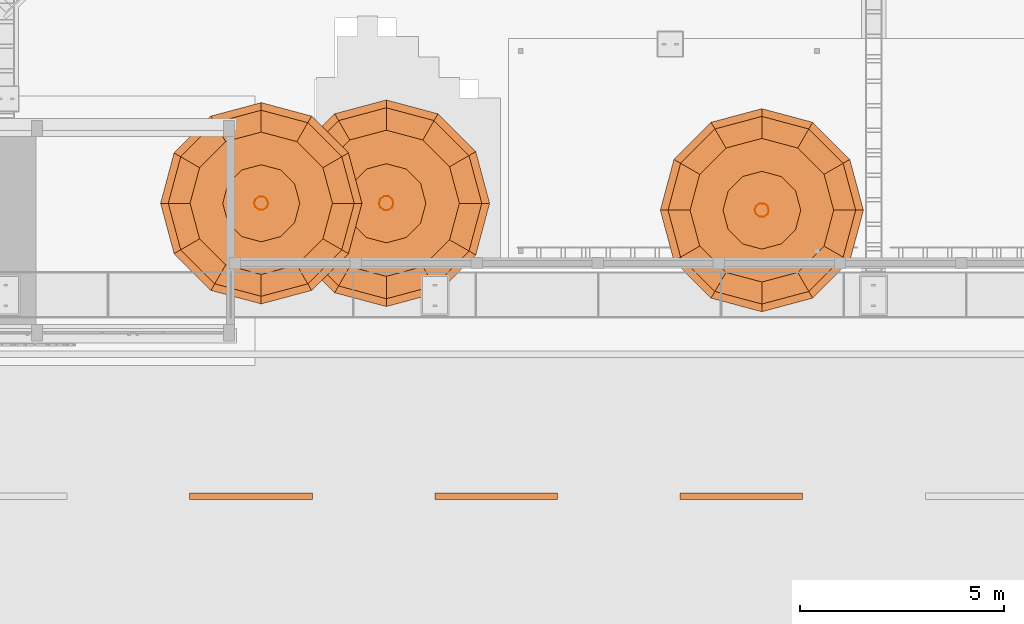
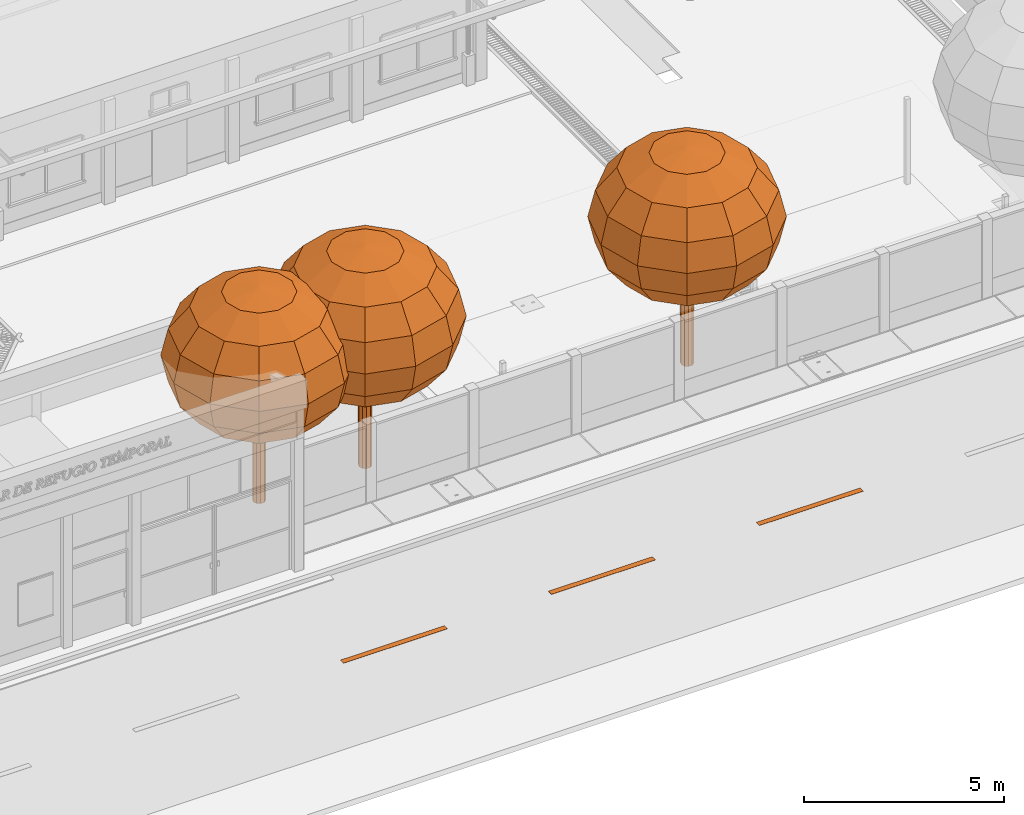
# One storey, part 149 of 166: 9 proxies.
"""IFC2X3 building model written with IfcOpenShell, lengths in metres."""

import ifcopenshell
import ifcopenshell.guid

model = None  # the IFC model being written
_history = None  # IfcOwnerHistory: only IFC2X3 demands one
_inside = {}  # id of a spatial element -> (the spatial element, [elements in it])
_under = {}  # id of a project, library or spatial element -> (it, [spatial elements below it])
_declared = {}  # id of a project -> (the project, [libraries it declares])
_typed = {}  # id of a type object -> (the type object, [elements of that type])
_made_of = {}  # id of a material, layer set ... -> (it, [elements and type objects made of it])


def new_model(schema):
    """Start an empty IFC model of exactly this schema.

    Asked for "IFC4X3", IfcOpenShell would pick the latest addendum, in which some entities
    have other attributes; the version numbers below select the first issue.
    IFC2X3 requires an IfcOwnerHistory on every rooted entity: one is made here for all.
    """
    global model, _history
    if schema == "IFC4X3":
        model = ifcopenshell.file(schema_version=(4, 3, 0, 0))
    else:
        model = ifcopenshell.file(schema=schema)
    _inside.clear()
    _under.clear()
    _declared.clear()
    _typed.clear()
    _made_of.clear()
    _history = None
    if model.schema == "IFC2X3":
        org = make("IfcOrganization", Name="unknown")
        user = make(
            "IfcPersonAndOrganization",
            ThePerson=make("IfcPerson", FamilyName="unknown"),
            TheOrganization=org,
        )
        app = make(
            "IfcApplication",
            ApplicationDeveloper=org,
            Version="unknown",
            ApplicationFullName="unknown",
            ApplicationIdentifier="unknown",
        )
        _history = make(
            "IfcOwnerHistory",
            OwningUser=user,
            OwningApplication=app,
            ChangeAction="ADDED",
            CreationDate=0,
        )
    return model


def make(cls, **values):
    """One entity of the class cls with the attributes given. An attribute that is None is left unset."""
    return model.create_entity(
        cls, **{name: value for name, value in values.items() if value is not None}
    )


def rooted(cls, **values):
    """An entity with a GlobalId (a new one), such as an element, a storey or a relation."""
    return make(cls, GlobalId=ifcopenshell.guid.new(), OwnerHistory=_history, **values)


def si_unit(unit_type, name, prefix=None):
    """IfcSIUnit, for example si_unit("LENGTHUNIT", "METRE", prefix="MILLI")."""
    return make("IfcSIUnit", UnitType=unit_type, Prefix=prefix, Name=name)


def assignment(units):
    """IfcUnitAssignment: the units of a project."""
    return None if units is None else make("IfcUnitAssignment", Units=units)


def point(xyz):
    """IfcCartesianPoint."""
    return None if xyz is None else make("IfcCartesianPoint", Coordinates=xyz)


def direction(xyz):
    """IfcDirection."""
    return None if xyz is None else make("IfcDirection", DirectionRatios=xyz)


def frame(location, z_axis=None, x_axis=None):
    """IfcAxis2Placement3D, a coordinate frame: its origin and axes. An axis left out is left unset."""
    return make(
        "IfcAxis2Placement3D",
        Location=point(location),
        Axis=direction(z_axis),
        RefDirection=direction(x_axis),
    )


def origin():
    """The frame at (0, 0, 0) with its axes left unset."""
    return frame((0.0, 0.0, 0.0))


def origin_with_axes():
    """The frame at (0, 0, 0) with the z axis (0, 0, 1) and the x axis (1, 0, 0) written out."""
    return frame((0.0, 0.0, 0.0), z_axis=(0.0, 0.0, 1.0), x_axis=(1.0, 0.0, 0.0))


def place(relative_to, where):
    """IfcLocalPlacement: puts the frame where relative to a parent placement (None: the world)."""
    return make(
        "IfcLocalPlacement", PlacementRelTo=relative_to, RelativePlacement=where
    )


def context(
    kind, dimensions, precision=None, world=None, true_north=None, identifier=None
):
    """IfcGeometricRepresentationContext, for example the 3D "Model" context."""
    return make(
        "IfcGeometricRepresentationContext",
        ContextIdentifier=identifier,
        ContextType=kind,
        CoordinateSpaceDimension=dimensions,
        Precision=precision,
        WorldCoordinateSystem=world,
        TrueNorth=true_north,
    )


def subcontext(parent, identifier, kind, view, scale=None):
    """IfcGeometricRepresentationSubContext, for example "Body" below "Model"."""
    return make(
        "IfcGeometricRepresentationSubContext",
        ContextIdentifier=identifier,
        ContextType=kind,
        ParentContext=parent,
        TargetScale=scale,
        TargetView=view,
    )


def project(units=None, contexts=None):
    """IfcProject with its units and contexts."""
    return rooted(
        "IfcProject",
        Name="project",
        RepresentationContexts=contexts,
        UnitsInContext=assignment(units),
    )


def spatial(cls, under=None, at=None, **own):
    """A site, building, storey or space (cls), placed at a placement, below another one or the project."""
    s = rooted(cls, ObjectPlacement=at, **own)
    if under is not None:
        _under.setdefault(under.id(), (under, []))[1].append(s)
    return s


def faces_of(points, faces, orient=None, outer=None):
    """IfcFace entities. A face is a list of loops; a loop is a list of indices into points, from 0.

    orient and outer hold one flag for each loop. By default every Orientation is true, the
    first loop of a face is its IfcFaceOuterBound and the others are IfcFaceBound.
    """
    made = []
    for i, loops in enumerate(faces):
        bounds = []
        for j, loop in enumerate(loops):
            is_outer = j == 0 if outer is None else outer[i][j]
            bounds.append(
                make(
                    "IfcFaceOuterBound" if is_outer else "IfcFaceBound",
                    Bound=make("IfcPolyLoop", Polygon=[points[k] for k in loop]),
                    Orientation=True if orient is None else orient[i][j],
                )
            )
        made.append(make("IfcFace", Bounds=bounds))
    return made


def faceted_brep(points, faces, orient=None, outer=None, voids=None):
    """IfcFacetedBrep: a solid bounded by flat faces; with voids (closed shells), ...WithVoids."""
    shared = [point(p) for p in points]
    hull = make("IfcClosedShell", CfsFaces=faces_of(shared, faces, orient, outer))
    if voids is None:
        return make("IfcFacetedBrep", Outer=hull)
    return make(
        "IfcFacetedBrepWithVoids",
        Outer=hull,
        Voids=[
            make(cls, CfsFaces=faces_of(shared, fs, o, b)) for cls, fs, o, b in voids
        ],
    )


def shape(context_of_items, identifier, shape_type, items):
    """IfcShapeRepresentation: the items that make up one representation, for example the "Body"."""
    return make(
        "IfcShapeRepresentation",
        ContextOfItems=context_of_items,
        RepresentationIdentifier=identifier,
        RepresentationType=shape_type,
        Items=items,
    )


def made_of(thing, what):
    """Note that an element or type object is made of a material, layer set ...; save() writes the relation."""
    if what is not None:
        _made_of.setdefault(what.id(), (what, []))[1].append(thing)
    return thing


def element(
    cls,
    number,
    at=None,
    inside=None,
    cuts=None,
    type_object=None,
    material=None,
    context=None,
    identifier="Body",
    shape_type=None,
    held_by="IfcProductDefinitionShape",
    body=None,
    shapes=None,
    **own,
):
    """One element of the class cls, such as IfcWall. Its Tag is "e" and its number.

    at: its placement. inside: the storey or other place that contains it. cuts: it is an
    opening in that element (IfcRelVoidsElement). A single representation is given by context,
    identifier, shape_type and body (its items); several are given by shapes. held_by: the class
    of the entity that holds the representations. save() writes the other relations.
    """
    e = rooted(cls, Tag="e%d" % number, ObjectPlacement=at, **own)
    if body is not None:
        shapes = [shape(context, identifier, shape_type, body)]
    if shapes is not None:
        e.Representation = make(held_by, Representations=shapes)
    if inside is not None:
        _inside.setdefault(inside.id(), (inside, []))[1].append(e)
    if cuts is not None:
        rooted(
            "IfcRelVoidsElement", RelatingBuildingElement=cuts, RelatedOpeningElement=e
        )
    if type_object is not None:
        _typed.setdefault(type_object.id(), (type_object, []))[1].append(e)
    return made_of(e, material)


def aggregate(whole, parts):
    """IfcRelAggregates: a whole, such as a stair, and the parts it consists of."""
    return rooted("IfcRelAggregates", RelatingObject=whole, RelatedObjects=parts)


def save(model, path):
    """Write the relations noted so far, then the file.

    IfcRelAggregates (storeys below a building ...), IfcRelContainedInSpatialStructure (elements
    in a storey), IfcRelDefinesByType, IfcRelAssociatesMaterial and IfcRelDeclares: one each for
    every whole, place, type object, material and project.
    """
    for whole, parts in _under.values():
        aggregate(whole, parts)
    for where, things in _inside.values():
        rooted(
            "IfcRelContainedInSpatialStructure",
            RelatedElements=things,
            RelatingStructure=where,
        )
    for kind, things in _typed.values():
        rooted("IfcRelDefinesByType", RelatedObjects=things, RelatingType=kind)
    for what, things in _made_of.values():
        rooted("IfcRelAssociatesMaterial", RelatedObjects=things, RelatingMaterial=what)
    for by, libraries in _declared.values():
        rooted("IfcRelDeclares", RelatingContext=by, RelatedDefinitions=libraries)
    model.write(path)


model = new_model("IFC2X3")

# Units and contexts
model_context = context("Model", 3, precision=1e-05, world=origin_with_axes())
body_context = subcontext(model_context, "Body", "Model", "MODEL_VIEW")
ifc_project = project(units=[si_unit("LENGTHUNIT", "METRE"), si_unit("AREAUNIT", "SQUARE_METRE"), si_unit("VOLUMEUNIT", "CUBIC_METRE"), si_unit("PLANEANGLEUNIT", "RADIAN")], contexts=[model_context])

# Site, building, storey
site_placement = place(None, origin_with_axes())
site = spatial("IfcSite", under=ifc_project, at=site_placement, Name="Predio Los Mangos - Morales, San Martín", CompositionType="ELEMENT")
building_placement = place(site_placement, origin())
building = spatial("IfcBuilding", under=site, at=building_placement, Name="Hogar de Refugio Temporal", CompositionType="ELEMENT")
storey_placement = place(building_placement, origin())
storey = spatial("IfcBuildingStorey", under=building, at=storey_placement, Name="NIVEL 1 (NPT +0.00)", CompositionType="ELEMENT", Elevation=0.0)

# Proxies
proxy_1_placement = place(storey_placement, origin())
element("IfcBuildingElementProxy", 1, at=proxy_1_placement, inside=storey, Name="linea_carril", ObjectType="Losa deportiva y vía", context=body_context, shape_type="Brep", body=[
    faceted_brep([(44.0, 12.22, 0.02), (44.0, 12.38, 0.02), (47.0, 12.38, 0.02), (47.0, 12.22, 0.02), (44.0, 12.22, 0.025), (47.0, 12.22, 0.025), (47.0, 12.38, 0.025), (44.0, 12.38, 0.025)], [[[0, 1, 2, 3]], [[4, 5, 6, 7]], [[0, 3, 5, 4]], [[3, 2, 6, 5]], [[2, 1, 7, 6]], [[1, 0, 4, 7]]]),
])
proxy_2_placement = place(storey_placement, origin())
element("IfcBuildingElementProxy", 2, at=proxy_2_placement, inside=storey, Name="linea_carril", ObjectType="Losa deportiva y vía", context=body_context, shape_type="Brep", body=[
    faceted_brep([(50.0, 12.22, 0.02), (50.0, 12.38, 0.02), (53.0, 12.38, 0.02), (53.0, 12.22, 0.02), (50.0, 12.22, 0.025), (53.0, 12.22, 0.025), (53.0, 12.38, 0.025), (50.0, 12.38, 0.025)], [[[0, 1, 2, 3]], [[4, 5, 6, 7]], [[0, 3, 5, 4]], [[3, 2, 6, 5]], [[2, 1, 7, 6]], [[1, 0, 4, 7]]]),
])
proxy_3_placement = place(storey_placement, origin())
element("IfcBuildingElementProxy", 3, at=proxy_3_placement, inside=storey, Name="linea_carril", ObjectType="Losa deportiva y vía", context=body_context, shape_type="Brep", body=[
    faceted_brep([(56.0, 12.22, 0.02), (56.0, 12.38, 0.02), (59.0, 12.38, 0.02), (59.0, 12.22, 0.02), (56.0, 12.22, 0.025), (59.0, 12.22, 0.025), (59.0, 12.38, 0.025), (56.0, 12.38, 0.025)], [[[0, 1, 2, 3]], [[4, 5, 6, 7]], [[0, 3, 5, 4]], [[3, 2, 6, 5]], [[2, 1, 7, 6]], [[1, 0, 4, 7]]]),
])
proxy_4_placement = place(storey_placement, origin())
element("IfcBuildingElementProxy", 4, at=proxy_4_placement, inside=storey, Name="arbol_tronco", ObjectType="Árbol", context=body_context, shape_type="Brep", body=[
    faceted_brep([(48.9859, 19.47, 0.0), (48.9523, 19.5734, 0.0), (48.9523, 19.5734, 2.6388), (48.8644, 19.6373, 0.0), (48.8644, 19.6373, 2.6388), (48.7556, 19.6373, 0.0), (48.7556, 19.6373, 2.6388), (48.6677, 19.5734, 0.0), (48.6677, 19.5734, 2.6388), (48.6341, 19.47, 0.0), (48.6341, 19.47, 2.6388), (48.6677, 19.3666, 0.0), (48.6677, 19.3666, 2.6388), (48.7556, 19.3027, 0.0), (48.7556, 19.3027, 2.6388), (48.8644, 19.3027, 0.0), (48.8644, 19.3027, 2.6388), (48.9523, 19.3666, 0.0), (48.9523, 19.3666, 2.6388), (48.9859, 19.47, 2.6388)], [[[0, 1, 2]], [[1, 3, 4]], [[3, 5, 6]], [[5, 7, 8]], [[7, 9, 10]], [[9, 11, 12]], [[11, 13, 14]], [[13, 15, 16]], [[15, 17, 18]], [[17, 0, 19]], [[0, 2, 19]], [[1, 4, 2]], [[3, 6, 4]], [[5, 8, 6]], [[7, 10, 8]], [[9, 12, 10]], [[11, 14, 12]], [[13, 16, 14]], [[15, 18, 16]], [[17, 19, 18]]]),
])
proxy_5_placement = place(storey_placement, origin())
element("IfcBuildingElementProxy", 5, at=proxy_5_placement, inside=storey, Name="arbol_copa", ObjectType="Árbol", context=body_context, shape_type="Brep", body=[
    faceted_brep([(48.81, 19.47, 6.6851), (48.81, 19.47, 6.6851), (49.6481, 19.9539, 6.5215), (49.7778, 19.47, 6.5215), (48.81, 19.47, 6.6851), (49.2939, 20.3081, 6.5215), (48.81, 19.47, 6.6851), (48.81, 20.4378, 6.5215), (48.81, 19.47, 6.6851), (48.3261, 20.3081, 6.5215), (48.81, 19.47, 6.6851), (47.9719, 19.9539, 6.5215), (48.81, 19.47, 6.6851), (47.8422, 19.47, 6.5215), (48.81, 19.47, 6.6851), (47.9719, 18.9861, 6.5215), (48.81, 19.47, 6.6851), (48.3261, 18.6319, 6.5215), (48.81, 19.47, 6.6851), (48.81, 18.5022, 6.5215), (48.81, 19.47, 6.6851), (49.2939, 18.6319, 6.5215), (48.81, 19.47, 6.6851), (49.6481, 18.9861, 6.5215), (50.3586, 20.3641, 6.0555), (50.5982, 19.47, 6.0555), (49.7041, 21.0186, 6.0555), (48.81, 21.2582, 6.0555), (47.9159, 21.0186, 6.0555), (47.2614, 20.3641, 6.0555), (47.0218, 19.47, 6.0555), (47.2614, 18.5759, 6.0555), (47.9159, 17.9214, 6.0555), (48.81, 17.6818, 6.0555), (49.7041, 17.9214, 6.0555), (50.3586, 18.5759, 6.0555), (50.8334, 20.6382, 5.3581), (51.1464, 19.47, 5.3581), (49.9782, 21.4934, 5.3581), (48.81, 21.8064, 5.3581), (47.6418, 21.4934, 5.3581), (46.7866, 20.6382, 5.3581), (46.4736, 19.47, 5.3581), (46.7866, 18.3018, 5.3581), (47.6418, 17.4466, 5.3581), (48.81, 17.1336, 5.3581), (49.9782, 17.4466, 5.3581), (50.8334, 18.3018, 5.3581), (51.0001, 20.7344, 4.5355), (51.3389, 19.47, 4.5355), (50.0744, 21.6601, 4.5355), (48.81, 21.9989, 4.5355), (47.5456, 21.6601, 4.5355), (46.6199, 20.7344, 4.5355), (46.2811, 19.47, 4.5355), (46.6199, 18.2056, 4.5355), (47.5456, 17.2799, 4.5355), (48.81, 16.9411, 4.5355), (50.0744, 17.2799, 4.5355), (51.0001, 18.2056, 4.5355), (50.8334, 20.6382, 3.7129), (51.1464, 19.47, 3.7129), (49.9782, 21.4934, 3.7129), (48.81, 21.8064, 3.7129), (47.6418, 21.4934, 3.7129), (46.7866, 20.6382, 3.7129), (46.4736, 19.47, 3.7129), (46.7866, 18.3018, 3.7129), (47.6418, 17.4466, 3.7129), (48.81, 17.1336, 3.7129), (49.9782, 17.4466, 3.7129), (50.8334, 18.3018, 3.7129), (50.3586, 20.3641, 3.0156), (50.5982, 19.47, 3.0156), (49.7041, 21.0186, 3.0156), (48.81, 21.2582, 3.0156), (47.9159, 21.0186, 3.0156), (47.2614, 20.3641, 3.0156), (47.0218, 19.47, 3.0156), (47.2614, 18.5759, 3.0156), (47.9159, 17.9214, 3.0156), (48.81, 17.6818, 3.0156), (49.7041, 17.9214, 3.0156), (50.3586, 18.5759, 3.0156), (49.6481, 19.9539, 2.5496), (49.7778, 19.47, 2.5496), (49.2939, 20.3081, 2.5496), (48.81, 20.4378, 2.5496), (48.3261, 20.3081, 2.5496), (47.9719, 19.9539, 2.5496), (47.8422, 19.47, 2.5496), (47.9719, 18.9861, 2.5496), (48.3261, 18.6319, 2.5496), (48.81, 18.5022, 2.5496), (49.2939, 18.6319, 2.5496), (49.6481, 18.9861, 2.5496), (48.81, 19.47, 2.386), (48.81, 19.47, 2.386), (48.81, 19.47, 2.386), (48.81, 19.47, 2.386), (48.81, 19.47, 2.386), (48.81, 19.47, 2.386), (48.81, 19.47, 2.386), (48.81, 19.47, 2.386), (48.81, 19.47, 2.386), (48.81, 19.47, 2.386), (48.81, 19.47, 2.386), (48.81, 19.47, 2.386)], [[[0, 1, 2]], [[0, 2, 3]], [[1, 4, 5]], [[1, 5, 2]], [[4, 6, 7]], [[4, 7, 5]], [[6, 8, 9]], [[6, 9, 7]], [[8, 10, 11]], [[8, 11, 9]], [[10, 12, 13]], [[10, 13, 11]], [[12, 14, 15]], [[12, 15, 13]], [[14, 16, 17]], [[14, 17, 15]], [[16, 18, 19]], [[16, 19, 17]], [[18, 20, 21]], [[18, 21, 19]], [[20, 22, 23]], [[20, 23, 21]], [[22, 0, 3]], [[22, 3, 23]], [[3, 2, 24]], [[3, 24, 25]], [[2, 5, 26]], [[2, 26, 24]], [[5, 7, 27]], [[5, 27, 26]], [[7, 9, 28]], [[7, 28, 27]], [[9, 11, 29]], [[9, 29, 28]], [[11, 13, 30]], [[11, 30, 29]], [[13, 15, 31]], [[13, 31, 30]], [[15, 17, 32]], [[15, 32, 31]], [[17, 19, 33]], [[17, 33, 32]], [[19, 21, 34]], [[19, 34, 33]], [[21, 23, 35]], [[21, 35, 34]], [[23, 3, 25]], [[23, 25, 35]], [[25, 24, 36]], [[25, 36, 37]], [[24, 26, 38]], [[24, 38, 36]], [[26, 27, 39]], [[26, 39, 38]], [[27, 28, 40]], [[27, 40, 39]], [[28, 29, 41]], [[28, 41, 40]], [[29, 30, 42]], [[29, 42, 41]], [[30, 31, 43]], [[30, 43, 42]], [[31, 32, 44]], [[31, 44, 43]], [[32, 33, 45]], [[32, 45, 44]], [[33, 34, 46]], [[33, 46, 45]], [[34, 35, 47]], [[34, 47, 46]], [[35, 25, 37]], [[35, 37, 47]], [[37, 36, 48]], [[37, 48, 49]], [[36, 38, 50]], [[36, 50, 48]], [[38, 39, 51]], [[38, 51, 50]], [[39, 40, 52]], [[39, 52, 51]], [[40, 41, 53]], [[40, 53, 52]], [[41, 42, 54]], [[41, 54, 53]], [[42, 43, 55]], [[42, 55, 54]], [[43, 44, 56]], [[43, 56, 55]], [[44, 45, 57]], [[44, 57, 56]], [[45, 46, 58]], [[45, 58, 57]], [[46, 47, 59]], [[46, 59, 58]], [[47, 37, 49]], [[47, 49, 59]], [[49, 48, 60]], [[49, 60, 61]], [[48, 50, 62]], [[48, 62, 60]], [[50, 51, 63]], [[50, 63, 62]], [[51, 52, 64]], [[51, 64, 63]], [[52, 53, 65]], [[52, 65, 64]], [[53, 54, 66]], [[53, 66, 65]], [[54, 55, 67]], [[54, 67, 66]], [[55, 56, 68]], [[55, 68, 67]], [[56, 57, 69]], [[56, 69, 68]], [[57, 58, 70]], [[57, 70, 69]], [[58, 59, 71]], [[58, 71, 70]], [[59, 49, 61]], [[59, 61, 71]], [[61, 60, 72]], [[61, 72, 73]], [[60, 62, 74]], [[60, 74, 72]], [[62, 63, 75]], [[62, 75, 74]], [[63, 64, 76]], [[63, 76, 75]], [[64, 65, 77]], [[64, 77, 76]], [[65, 66, 78]], [[65, 78, 77]], [[66, 67, 79]], [[66, 79, 78]], [[67, 68, 80]], [[67, 80, 79]], [[68, 69, 81]], [[68, 81, 80]], [[69, 70, 82]], [[69, 82, 81]], [[70, 71, 83]], [[70, 83, 82]], [[71, 61, 73]], [[71, 73, 83]], [[73, 72, 84]], [[73, 84, 85]], [[72, 74, 86]], [[72, 86, 84]], [[74, 75, 87]], [[74, 87, 86]], [[75, 76, 88]], [[75, 88, 87]], [[76, 77, 89]], [[76, 89, 88]], [[77, 78, 90]], [[77, 90, 89]], [[78, 79, 91]], [[78, 91, 90]], [[79, 80, 92]], [[79, 92, 91]], [[80, 81, 93]], [[80, 93, 92]], [[81, 82, 94]], [[81, 94, 93]], [[82, 83, 95]], [[82, 95, 94]], [[83, 73, 85]], [[83, 85, 95]], [[85, 84, 96]], [[85, 96, 97]], [[84, 86, 98]], [[84, 98, 96]], [[86, 87, 99]], [[86, 99, 98]], [[87, 88, 100]], [[87, 100, 99]], [[88, 89, 101]], [[88, 101, 100]], [[89, 90, 102]], [[89, 102, 101]], [[90, 91, 103]], [[90, 103, 102]], [[91, 92, 104]], [[91, 104, 103]], [[92, 93, 105]], [[92, 105, 104]], [[93, 94, 106]], [[93, 106, 105]], [[94, 95, 107]], [[94, 107, 106]], [[95, 85, 97]], [[95, 97, 107]]]),
])
proxy_6_placement = place(storey_placement, origin())
element("IfcBuildingElementProxy", 6, at=proxy_6_placement, inside=storey, Name="arbol_tronco", ObjectType="Árbol", context=body_context, shape_type="Brep", body=[
    faceted_brep([(45.9214, 19.47, 0.0), (45.8886, 19.5707, 0.0), (45.8886, 19.5707, 2.5706), (45.803, 19.633, 0.0), (45.803, 19.633, 2.5706), (45.697, 19.633, 0.0), (45.697, 19.633, 2.5706), (45.6114, 19.5707, 0.0), (45.6114, 19.5707, 2.5706), (45.5786, 19.47, 0.0), (45.5786, 19.47, 2.5706), (45.6114, 19.3693, 0.0), (45.6114, 19.3693, 2.5706), (45.697, 19.307, 0.0), (45.697, 19.307, 2.5706), (45.803, 19.307, 0.0), (45.803, 19.307, 2.5706), (45.8886, 19.3693, 0.0), (45.8886, 19.3693, 2.5706), (45.9214, 19.47, 2.5706)], [[[0, 1, 2]], [[1, 3, 4]], [[3, 5, 6]], [[5, 7, 8]], [[7, 9, 10]], [[9, 11, 12]], [[11, 13, 14]], [[13, 15, 16]], [[15, 17, 18]], [[17, 0, 19]], [[0, 2, 19]], [[1, 4, 2]], [[3, 6, 4]], [[5, 8, 6]], [[7, 10, 8]], [[9, 12, 10]], [[11, 14, 12]], [[13, 16, 14]], [[15, 18, 16]], [[17, 19, 18]]]),
])
proxy_7_placement = place(storey_placement, origin())
element("IfcBuildingElementProxy", 7, at=proxy_7_placement, inside=storey, Name="arbol_copa", ObjectType="Árbol", context=body_context, shape_type="Brep", body=[
    faceted_brep([(45.75, 19.47, 6.5122), (45.75, 19.47, 6.5122), (46.5664, 19.9414, 6.3528), (46.6927, 19.47, 6.3528), (45.75, 19.47, 6.5122), (46.2214, 20.2864, 6.3528), (45.75, 19.47, 6.5122), (45.75, 20.4127, 6.3528), (45.75, 19.47, 6.5122), (45.2786, 20.2864, 6.3528), (45.75, 19.47, 6.5122), (44.9336, 19.9414, 6.3528), (45.75, 19.47, 6.5122), (44.8073, 19.47, 6.3528), (45.75, 19.47, 6.5122), (44.9336, 18.9986, 6.3528), (45.75, 19.47, 6.5122), (45.2786, 18.6536, 6.3528), (45.75, 19.47, 6.5122), (45.75, 18.5273, 6.3528), (45.75, 19.47, 6.5122), (46.2214, 18.6536, 6.3528), (45.75, 19.47, 6.5122), (46.5664, 18.9986, 6.3528), (47.2586, 20.341, 5.8989), (47.492, 19.47, 5.8989), (46.621, 20.9786, 5.8989), (45.75, 21.212, 5.8989), (44.879, 20.9786, 5.8989), (44.2414, 20.341, 5.8989), (44.008, 19.47, 5.8989), (44.2414, 18.599, 5.8989), (44.879, 17.9614, 5.8989), (45.75, 17.728, 5.8989), (46.621, 17.9614, 5.8989), (47.2586, 18.599, 5.8989), (47.7211, 20.608, 5.2196), (48.026, 19.47, 5.2196), (46.888, 21.4411, 5.2196), (45.75, 21.746, 5.2196), (44.612, 21.4411, 5.2196), (43.7789, 20.608, 5.2196), (43.474, 19.47, 5.2196), (43.7789, 18.332, 5.2196), (44.612, 17.4989, 5.2196), (45.75, 17.194, 5.2196), (46.888, 17.4989, 5.2196), (47.7211, 18.332, 5.2196), (47.8835, 20.7018, 4.4183), (48.2135, 19.47, 4.4183), (46.9818, 21.6035, 4.4183), (45.75, 21.9335, 4.4183), (44.5182, 21.6035, 4.4183), (43.6165, 20.7018, 4.4183), (43.2865, 19.47, 4.4183), (43.6165, 18.2382, 4.4183), (44.5182, 17.3365, 4.4183), (45.75, 17.0065, 4.4183), (46.9818, 17.3365, 4.4183), (47.8835, 18.2382, 4.4183), (47.7211, 20.608, 3.6169), (48.026, 19.47, 3.6169), (46.888, 21.4411, 3.6169), (45.75, 21.746, 3.6169), (44.612, 21.4411, 3.6169), (43.7789, 20.608, 3.6169), (43.474, 19.47, 3.6169), (43.7789, 18.332, 3.6169), (44.612, 17.4989, 3.6169), (45.75, 17.194, 3.6169), (46.888, 17.4989, 3.6169), (47.7211, 18.332, 3.6169), (47.2586, 20.341, 2.9376), (47.492, 19.47, 2.9376), (46.621, 20.9786, 2.9376), (45.75, 21.212, 2.9376), (44.879, 20.9786, 2.9376), (44.2414, 20.341, 2.9376), (44.008, 19.47, 2.9376), (44.2414, 18.599, 2.9376), (44.879, 17.9614, 2.9376), (45.75, 17.728, 2.9376), (46.621, 17.9614, 2.9376), (47.2586, 18.599, 2.9376), (46.5664, 19.9414, 2.4837), (46.6927, 19.47, 2.4837), (46.2214, 20.2864, 2.4837), (45.75, 20.4127, 2.4837), (45.2786, 20.2864, 2.4837), (44.9336, 19.9414, 2.4837), (44.8073, 19.47, 2.4837), (44.9336, 18.9986, 2.4837), (45.2786, 18.6536, 2.4837), (45.75, 18.5273, 2.4837), (46.2214, 18.6536, 2.4837), (46.5664, 18.9986, 2.4837), (45.75, 19.47, 2.3243), (45.75, 19.47, 2.3243), (45.75, 19.47, 2.3243), (45.75, 19.47, 2.3243), (45.75, 19.47, 2.3243), (45.75, 19.47, 2.3243), (45.75, 19.47, 2.3243), (45.75, 19.47, 2.3243), (45.75, 19.47, 2.3243), (45.75, 19.47, 2.3243), (45.75, 19.47, 2.3243), (45.75, 19.47, 2.3243)], [[[0, 1, 2]], [[0, 2, 3]], [[1, 4, 5]], [[1, 5, 2]], [[4, 6, 7]], [[4, 7, 5]], [[6, 8, 9]], [[6, 9, 7]], [[8, 10, 11]], [[8, 11, 9]], [[10, 12, 13]], [[10, 13, 11]], [[12, 14, 15]], [[12, 15, 13]], [[14, 16, 17]], [[14, 17, 15]], [[16, 18, 19]], [[16, 19, 17]], [[18, 20, 21]], [[18, 21, 19]], [[20, 22, 23]], [[20, 23, 21]], [[22, 0, 3]], [[22, 3, 23]], [[3, 2, 24]], [[3, 24, 25]], [[2, 5, 26]], [[2, 26, 24]], [[5, 7, 27]], [[5, 27, 26]], [[7, 9, 28]], [[7, 28, 27]], [[9, 11, 29]], [[9, 29, 28]], [[11, 13, 30]], [[11, 30, 29]], [[13, 15, 31]], [[13, 31, 30]], [[15, 17, 32]], [[15, 32, 31]], [[17, 19, 33]], [[17, 33, 32]], [[19, 21, 34]], [[19, 34, 33]], [[21, 23, 35]], [[21, 35, 34]], [[23, 3, 25]], [[23, 25, 35]], [[25, 24, 36]], [[25, 36, 37]], [[24, 26, 38]], [[24, 38, 36]], [[26, 27, 39]], [[26, 39, 38]], [[27, 28, 40]], [[27, 40, 39]], [[28, 29, 41]], [[28, 41, 40]], [[29, 30, 42]], [[29, 42, 41]], [[30, 31, 43]], [[30, 43, 42]], [[31, 32, 44]], [[31, 44, 43]], [[32, 33, 45]], [[32, 45, 44]], [[33, 34, 46]], [[33, 46, 45]], [[34, 35, 47]], [[34, 47, 46]], [[35, 25, 37]], [[35, 37, 47]], [[37, 36, 48]], [[37, 48, 49]], [[36, 38, 50]], [[36, 50, 48]], [[38, 39, 51]], [[38, 51, 50]], [[39, 40, 52]], [[39, 52, 51]], [[40, 41, 53]], [[40, 53, 52]], [[41, 42, 54]], [[41, 54, 53]], [[42, 43, 55]], [[42, 55, 54]], [[43, 44, 56]], [[43, 56, 55]], [[44, 45, 57]], [[44, 57, 56]], [[45, 46, 58]], [[45, 58, 57]], [[46, 47, 59]], [[46, 59, 58]], [[47, 37, 49]], [[47, 49, 59]], [[49, 48, 60]], [[49, 60, 61]], [[48, 50, 62]], [[48, 62, 60]], [[50, 51, 63]], [[50, 63, 62]], [[51, 52, 64]], [[51, 64, 63]], [[52, 53, 65]], [[52, 65, 64]], [[53, 54, 66]], [[53, 66, 65]], [[54, 55, 67]], [[54, 67, 66]], [[55, 56, 68]], [[55, 68, 67]], [[56, 57, 69]], [[56, 69, 68]], [[57, 58, 70]], [[57, 70, 69]], [[58, 59, 71]], [[58, 71, 70]], [[59, 49, 61]], [[59, 61, 71]], [[61, 60, 72]], [[61, 72, 73]], [[60, 62, 74]], [[60, 74, 72]], [[62, 63, 75]], [[62, 75, 74]], [[63, 64, 76]], [[63, 76, 75]], [[64, 65, 77]], [[64, 77, 76]], [[65, 66, 78]], [[65, 78, 77]], [[66, 67, 79]], [[66, 79, 78]], [[67, 68, 80]], [[67, 80, 79]], [[68, 69, 81]], [[68, 81, 80]], [[69, 70, 82]], [[69, 82, 81]], [[70, 71, 83]], [[70, 83, 82]], [[71, 61, 73]], [[71, 73, 83]], [[73, 72, 84]], [[73, 84, 85]], [[72, 74, 86]], [[72, 86, 84]], [[74, 75, 87]], [[74, 87, 86]], [[75, 76, 88]], [[75, 88, 87]], [[76, 77, 89]], [[76, 89, 88]], [[77, 78, 90]], [[77, 90, 89]], [[78, 79, 91]], [[78, 91, 90]], [[79, 80, 92]], [[79, 92, 91]], [[80, 81, 93]], [[80, 93, 92]], [[81, 82, 94]], [[81, 94, 93]], [[82, 83, 95]], [[82, 95, 94]], [[83, 73, 85]], [[83, 85, 95]], [[85, 84, 96]], [[85, 96, 97]], [[84, 86, 98]], [[84, 98, 96]], [[86, 87, 99]], [[86, 99, 98]], [[87, 88, 100]], [[87, 100, 99]], [[88, 89, 101]], [[88, 101, 100]], [[89, 90, 102]], [[89, 102, 101]], [[90, 91, 103]], [[90, 103, 102]], [[91, 92, 104]], [[91, 104, 103]], [[92, 93, 105]], [[92, 105, 104]], [[93, 94, 106]], [[93, 106, 105]], [[94, 95, 107]], [[94, 107, 106]], [[95, 85, 97]], [[95, 97, 107]]]),
])
proxy_8_placement = place(storey_placement, origin())
element("IfcBuildingElementProxy", 8, at=proxy_8_placement, inside=storey, Name="arbol_tronco", ObjectType="Árbol", context=body_context, shape_type="Brep", body=[
    faceted_brep([(58.1729, 19.3, 0.0), (58.1399, 19.4016, 0.0), (58.1399, 19.4016, 2.593), (58.0534, 19.4644, 0.0), (58.0534, 19.4644, 2.593), (57.9466, 19.4644, 0.0), (57.9466, 19.4644, 2.593), (57.8601, 19.4016, 0.0), (57.8601, 19.4016, 2.593), (57.8271, 19.3, 0.0), (57.8271, 19.3, 2.593), (57.8601, 19.1984, 0.0), (57.8601, 19.1984, 2.593), (57.9466, 19.1356, 0.0), (57.9466, 19.1356, 2.593), (58.0534, 19.1356, 0.0), (58.0534, 19.1356, 2.593), (58.1399, 19.1984, 0.0), (58.1399, 19.1984, 2.593), (58.1729, 19.3, 2.593)], [[[0, 1, 2]], [[1, 3, 4]], [[3, 5, 6]], [[5, 7, 8]], [[7, 9, 10]], [[9, 11, 12]], [[11, 13, 14]], [[13, 15, 16]], [[15, 17, 18]], [[17, 0, 19]], [[0, 2, 19]], [[1, 4, 2]], [[3, 6, 4]], [[5, 8, 6]], [[7, 10, 8]], [[9, 12, 10]], [[11, 14, 12]], [[13, 16, 14]], [[15, 18, 16]], [[17, 19, 18]]]),
])
proxy_9_placement = place(storey_placement, origin())
element("IfcBuildingElementProxy", 9, at=proxy_9_placement, inside=storey, Name="arbol_copa", ObjectType="Árbol", context=body_context, shape_type="Brep", body=[
    faceted_brep([(58.0, 19.3, 6.5689), (58.0, 19.3, 6.5689), (58.8235, 19.7755, 6.4081), (58.951, 19.3, 6.4081), (58.0, 19.3, 6.5689), (58.4755, 20.1235, 6.4081), (58.0, 19.3, 6.5689), (58.0, 20.251, 6.4081), (58.0, 19.3, 6.5689), (57.5245, 20.1235, 6.4081), (58.0, 19.3, 6.5689), (57.1765, 19.7755, 6.4081), (58.0, 19.3, 6.5689), (57.049, 19.3, 6.4081), (58.0, 19.3, 6.5689), (57.1765, 18.8245, 6.4081), (58.0, 19.3, 6.5689), (57.5245, 18.4765, 6.4081), (58.0, 19.3, 6.5689), (58.0, 18.349, 6.4081), (58.0, 19.3, 6.5689), (58.4755, 18.4765, 6.4081), (58.0, 19.3, 6.5689), (58.8235, 18.8245, 6.4081), (59.5217, 20.1786, 5.9503), (59.7571, 19.3, 5.9503), (58.8786, 20.8217, 5.9503), (58.0, 21.0571, 5.9503), (57.1214, 20.8217, 5.9503), (56.4783, 20.1786, 5.9503), (56.2429, 19.3, 5.9503), (56.4783, 18.4214, 5.9503), (57.1214, 17.7783, 5.9503), (58.0, 17.5429, 5.9503), (58.8786, 17.7783, 5.9503), (59.5217, 18.4214, 5.9503), (59.9882, 20.4479, 5.265), (60.2958, 19.3, 5.265), (59.1479, 21.2882, 5.265), (58.0, 21.5958, 5.265), (56.8521, 21.2882, 5.265), (56.0118, 20.4479, 5.265), (55.7042, 19.3, 5.265), (56.0118, 18.1521, 5.265), (56.8521, 17.3118, 5.265), (58.0, 17.0042, 5.265), (59.1479, 17.3118, 5.265), (59.9882, 18.1521, 5.265), (60.152, 20.5425, 4.4567), (60.485, 19.3, 4.4567), (59.2425, 21.452, 4.4567), (58.0, 21.785, 4.4567), (56.7575, 21.452, 4.4567), (55.848, 20.5425, 4.4567), (55.515, 19.3, 4.4567), (55.848, 18.0575, 4.4567), (56.7575, 17.148, 4.4567), (58.0, 16.815, 4.4567), (59.2425, 17.148, 4.4567), (60.152, 18.0575, 4.4567), (59.9882, 20.4479, 3.6484), (60.2958, 19.3, 3.6484), (59.1479, 21.2882, 3.6484), (58.0, 21.5958, 3.6484), (56.8521, 21.2882, 3.6484), (56.0118, 20.4479, 3.6484), (55.7042, 19.3, 3.6484), (56.0118, 18.1521, 3.6484), (56.8521, 17.3118, 3.6484), (58.0, 17.0042, 3.6484), (59.1479, 17.3118, 3.6484), (59.9882, 18.1521, 3.6484), (59.5217, 20.1786, 2.9632), (59.7571, 19.3, 2.9632), (58.8786, 20.8217, 2.9632), (58.0, 21.0571, 2.9632), (57.1214, 20.8217, 2.9632), (56.4783, 20.1786, 2.9632), (56.2429, 19.3, 2.9632), (56.4783, 18.4214, 2.9632), (57.1214, 17.7783, 2.9632), (58.0, 17.5429, 2.9632), (58.8786, 17.7783, 2.9632), (59.5217, 18.4214, 2.9632), (58.8235, 19.7755, 2.5053), (58.951, 19.3, 2.5053), (58.4755, 20.1235, 2.5053), (58.0, 20.251, 2.5053), (57.5245, 20.1235, 2.5053), (57.1765, 19.7755, 2.5053), (57.049, 19.3, 2.5053), (57.1765, 18.8245, 2.5053), (57.5245, 18.4765, 2.5053), (58.0, 18.349, 2.5053), (58.4755, 18.4765, 2.5053), (58.8235, 18.8245, 2.5053), (58.0, 19.3, 2.3445), (58.0, 19.3, 2.3445), (58.0, 19.3, 2.3445), (58.0, 19.3, 2.3445), (58.0, 19.3, 2.3445), (58.0, 19.3, 2.3445), (58.0, 19.3, 2.3445), (58.0, 19.3, 2.3445), (58.0, 19.3, 2.3445), (58.0, 19.3, 2.3445), (58.0, 19.3, 2.3445), (58.0, 19.3, 2.3445)], [[[0, 1, 2]], [[0, 2, 3]], [[1, 4, 5]], [[1, 5, 2]], [[4, 6, 7]], [[4, 7, 5]], [[6, 8, 9]], [[6, 9, 7]], [[8, 10, 11]], [[8, 11, 9]], [[10, 12, 13]], [[10, 13, 11]], [[12, 14, 15]], [[12, 15, 13]], [[14, 16, 17]], [[14, 17, 15]], [[16, 18, 19]], [[16, 19, 17]], [[18, 20, 21]], [[18, 21, 19]], [[20, 22, 23]], [[20, 23, 21]], [[22, 0, 3]], [[22, 3, 23]], [[3, 2, 24]], [[3, 24, 25]], [[2, 5, 26]], [[2, 26, 24]], [[5, 7, 27]], [[5, 27, 26]], [[7, 9, 28]], [[7, 28, 27]], [[9, 11, 29]], [[9, 29, 28]], [[11, 13, 30]], [[11, 30, 29]], [[13, 15, 31]], [[13, 31, 30]], [[15, 17, 32]], [[15, 32, 31]], [[17, 19, 33]], [[17, 33, 32]], [[19, 21, 34]], [[19, 34, 33]], [[21, 23, 35]], [[21, 35, 34]], [[23, 3, 25]], [[23, 25, 35]], [[25, 24, 36]], [[25, 36, 37]], [[24, 26, 38]], [[24, 38, 36]], [[26, 27, 39]], [[26, 39, 38]], [[27, 28, 40]], [[27, 40, 39]], [[28, 29, 41]], [[28, 41, 40]], [[29, 30, 42]], [[29, 42, 41]], [[30, 31, 43]], [[30, 43, 42]], [[31, 32, 44]], [[31, 44, 43]], [[32, 33, 45]], [[32, 45, 44]], [[33, 34, 46]], [[33, 46, 45]], [[34, 35, 47]], [[34, 47, 46]], [[35, 25, 37]], [[35, 37, 47]], [[37, 36, 48]], [[37, 48, 49]], [[36, 38, 50]], [[36, 50, 48]], [[38, 39, 51]], [[38, 51, 50]], [[39, 40, 52]], [[39, 52, 51]], [[40, 41, 53]], [[40, 53, 52]], [[41, 42, 54]], [[41, 54, 53]], [[42, 43, 55]], [[42, 55, 54]], [[43, 44, 56]], [[43, 56, 55]], [[44, 45, 57]], [[44, 57, 56]], [[45, 46, 58]], [[45, 58, 57]], [[46, 47, 59]], [[46, 59, 58]], [[47, 37, 49]], [[47, 49, 59]], [[49, 48, 60]], [[49, 60, 61]], [[48, 50, 62]], [[48, 62, 60]], [[50, 51, 63]], [[50, 63, 62]], [[51, 52, 64]], [[51, 64, 63]], [[52, 53, 65]], [[52, 65, 64]], [[53, 54, 66]], [[53, 66, 65]], [[54, 55, 67]], [[54, 67, 66]], [[55, 56, 68]], [[55, 68, 67]], [[56, 57, 69]], [[56, 69, 68]], [[57, 58, 70]], [[57, 70, 69]], [[58, 59, 71]], [[58, 71, 70]], [[59, 49, 61]], [[59, 61, 71]], [[61, 60, 72]], [[61, 72, 73]], [[60, 62, 74]], [[60, 74, 72]], [[62, 63, 75]], [[62, 75, 74]], [[63, 64, 76]], [[63, 76, 75]], [[64, 65, 77]], [[64, 77, 76]], [[65, 66, 78]], [[65, 78, 77]], [[66, 67, 79]], [[66, 79, 78]], [[67, 68, 80]], [[67, 80, 79]], [[68, 69, 81]], [[68, 81, 80]], [[69, 70, 82]], [[69, 82, 81]], [[70, 71, 83]], [[70, 83, 82]], [[71, 61, 73]], [[71, 73, 83]], [[73, 72, 84]], [[73, 84, 85]], [[72, 74, 86]], [[72, 86, 84]], [[74, 75, 87]], [[74, 87, 86]], [[75, 76, 88]], [[75, 88, 87]], [[76, 77, 89]], [[76, 89, 88]], [[77, 78, 90]], [[77, 90, 89]], [[78, 79, 91]], [[78, 91, 90]], [[79, 80, 92]], [[79, 92, 91]], [[80, 81, 93]], [[80, 93, 92]], [[81, 82, 94]], [[81, 94, 93]], [[82, 83, 95]], [[82, 95, 94]], [[83, 73, 85]], [[83, 85, 95]], [[85, 84, 96]], [[85, 96, 97]], [[84, 86, 98]], [[84, 98, 96]], [[86, 87, 99]], [[86, 99, 98]], [[87, 88, 100]], [[87, 100, 99]], [[88, 89, 101]], [[88, 101, 100]], [[89, 90, 102]], [[89, 102, 101]], [[90, 91, 103]], [[90, 103, 102]], [[91, 92, 104]], [[91, 104, 103]], [[92, 93, 105]], [[92, 105, 104]], [[93, 94, 106]], [[93, 106, 105]], [[94, 95, 107]], [[94, 107, 106]], [[95, 85, 97]], [[95, 97, 107]]]),
])

save(model, "model.ifc")
